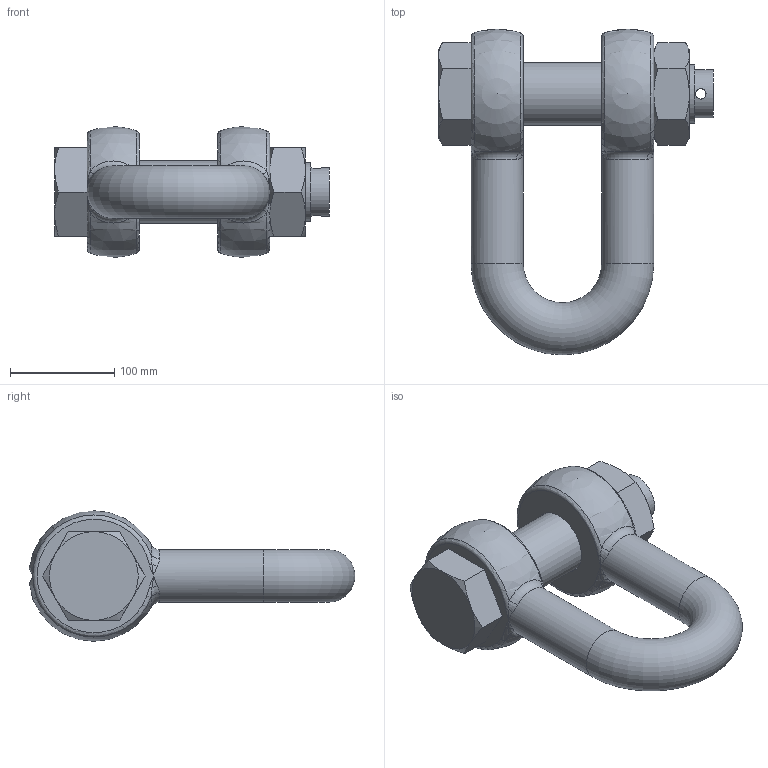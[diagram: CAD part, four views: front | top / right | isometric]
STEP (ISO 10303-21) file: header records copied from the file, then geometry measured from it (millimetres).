
FILE_DESCRIPTION(/* description */ (''),/* implementation_level */ '2;1');
FILE_NAME(/* name */ 'C:\Users\D\Documents\Inventor\HP\吊具\シャックル\SB_2\sb_50.stp',/* time_stamp */ '2024-11-14T11:44:26+09:00',/* author */ ('D'),/* organization */ (''),/* preprocessor_version */ 'ST-DEVELOPER v18',/* originating_system */ 'Autodesk Inventor 2020',/* authorisation */ '');
FILE_SCHEMA (('AUTOMOTIVE_DESIGN { 1 0 10303 214 3 1 1 }'));
Length unit declared in the file: millimetre
Products named in the file (3): sb_50; sb_6; sb_pin_10
Assembly tree (2 placements, depth 2):
  sb_50
    sb_6
    sb_pin_10
Bounding box: 263 x 312.04 x 125 mm (x, y, z)
Volume: 2583026.6 mm3; surface area: 222265.6 mm2
Topology: 2 solids, 2 shells, 85 faces, 219 edges, 121 vertices
Faces by surface type: bspline 24, plane 22, cone 19, cylinder 9, torus 9, sphere 2
Full cylindrical faces by diameter (mm): 10 x1, 46 x1, 50 x2, 56 x2, 60 x1, 62 x2
Entity records: 3254 total; most frequent: CARTESIAN_POINT 1395, ORIENTED_EDGE 398, DIRECTION 339, EDGE_CURVE 199, AXIS2_PLACEMENT_3D 155, VERTEX_POINT 121, EDGE_LOOP 94, CIRCLE 89
